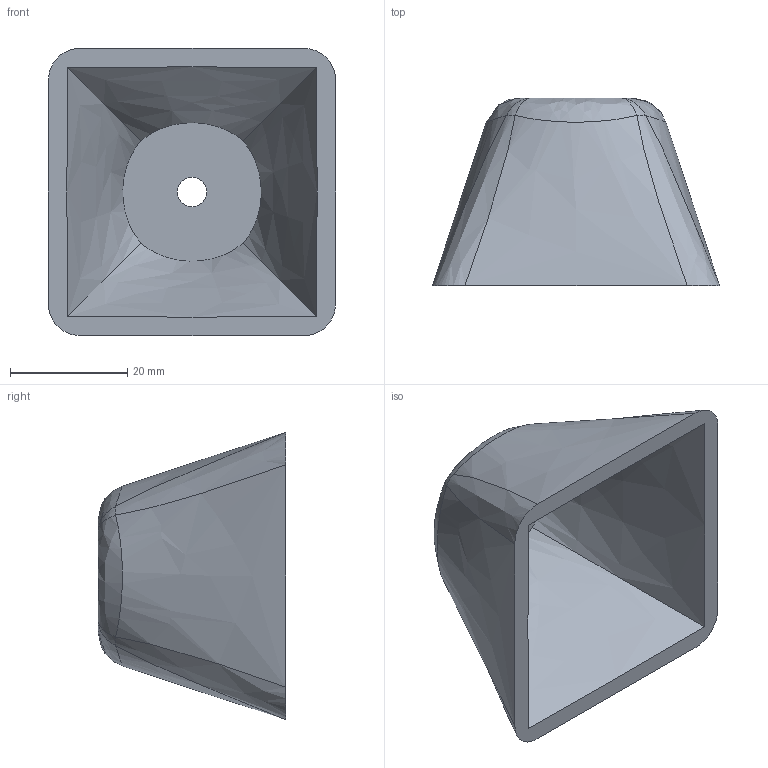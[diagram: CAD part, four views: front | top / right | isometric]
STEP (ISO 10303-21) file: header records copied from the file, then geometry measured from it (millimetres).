
FILE_DESCRIPTION (( 'STEP AP203' ), '1' );
FILE_NAME ('CONO_CENTRATORE_50X50.STEP', '2019-02-20T19:31:11', ( '' ), ( '' ), 'SwSTEP 2.0', 'SolidWorks 2019', '' );
FILE_SCHEMA (( 'CONFIG_CONTROL_DESIGN' ));
Length unit declared in the file: millimetre
Products named in the file (1): CONO_CENTRATORE_50X50
Bounding box: 49 x 32 x 49 mm (x, y, z)
Volume: 13858 mm3; surface area: 10038.9 mm2
Topology: 1 solids, 1 shells, 26 faces, 56 edges, 33 vertices
Faces by surface type: bspline 16, sphere 5, plane 3, cylinder 2
Entity records: 3512 total; most frequent: CARTESIAN_POINT 3018, ORIENTED_EDGE 112, EDGE_CURVE 56, B_SPLINE_CURVE_WITH_KNOTS 39, DIRECTION 38, VERTEX_POINT 33, EDGE_LOOP 29, ADVANCED_FACE 26
